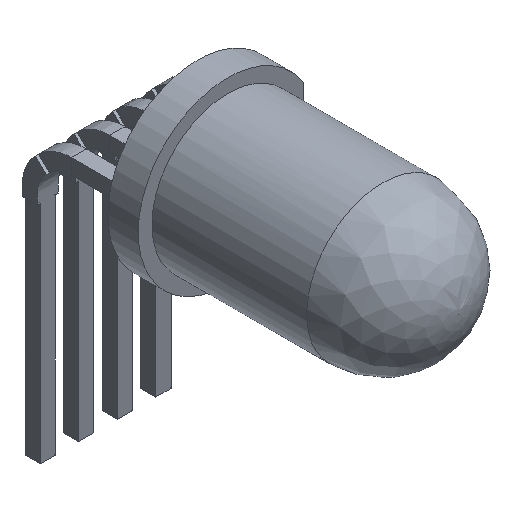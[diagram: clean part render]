
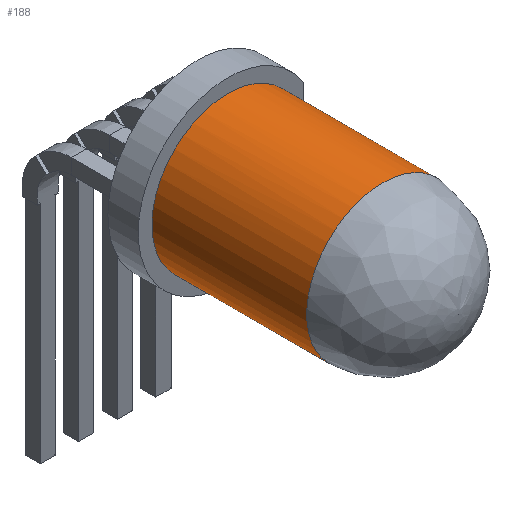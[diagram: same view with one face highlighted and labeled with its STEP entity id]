
A CAD part, isometric view. The second image highlights one B-rep face of the part: STEP entity #188.
In plain terms, the highlighted cylindrical face has radius 2.5 mm (diameter 5 mm), a full revolution.
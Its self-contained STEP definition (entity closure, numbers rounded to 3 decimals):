
#20=CYLINDRICAL_SURFACE('',#1388,2.5);
#35=(
BOUNDED_CURVE()
B_SPLINE_CURVE(2,(#4823,#4824,#4825,#4826,#4827,#4828,#4829),
 .UNSPECIFIED.,.F.,.F.)
B_SPLINE_CURVE_WITH_KNOTS((3,2,2,3),(-15.708,-11.781,
-7.854,-3.927),.UNSPECIFIED.)
CURVE()
GEOMETRIC_REPRESENTATION_ITEM()
RATIONAL_B_SPLINE_CURVE((1.,0.707,1.,0.707,1.,0.707,
1.))
REPRESENTATION_ITEM('')
);
#36=(
BOUNDED_CURVE()
B_SPLINE_CURVE(1,(#4830,#4831),.UNSPECIFIED.,.F.,.F.)
B_SPLINE_CURVE_WITH_KNOTS((2,2),(1.,6.1),.UNSPECIFIED.)
CURVE()
GEOMETRIC_REPRESENTATION_ITEM()
RATIONAL_B_SPLINE_CURVE((1.,1.))
REPRESENTATION_ITEM('')
);
#41=(
BOUNDED_CURVE()
B_SPLINE_CURVE(2,(#4856,#4857,#4858),.UNSPECIFIED.,.F.,.F.)
B_SPLINE_CURVE_WITH_KNOTS((3,3),(-3.927,0.),.UNSPECIFIED.)
CURVE()
GEOMETRIC_REPRESENTATION_ITEM()
RATIONAL_B_SPLINE_CURVE((1.,0.707,1.))
REPRESENTATION_ITEM('')
);
#42=(
BOUNDED_CURVE()
B_SPLINE_CURVE(2,(#4859,#4860,#4861,#4862,#4863,#4864,#4865,#4866,#4867,
#4868,#4869),.UNSPECIFIED.,.T.,.F.)
B_SPLINE_CURVE_WITH_KNOTS((3,2,2,2,2,3),(-15.708,-12.763,
-9.817,-6.872,-3.927,0.),.UNSPECIFIED.)
CURVE()
GEOMETRIC_REPRESENTATION_ITEM()
RATIONAL_B_SPLINE_CURVE((1.,0.831,1.,0.831,1.,0.831,
1.,0.831,1.,0.707,1.))
REPRESENTATION_ITEM('')
);
#188=ADVANCED_FACE('',(#268),#20,.T.);
#268=FACE_OUTER_BOUND('',#352,.T.);
#352=EDGE_LOOP('',(#723,#724,#725,#726,#727));
#723=ORIENTED_EDGE('',*,*,#926,.F.);
#724=ORIENTED_EDGE('',*,*,#934,.F.);
#725=ORIENTED_EDGE('',*,*,#925,.F.);
#726=ORIENTED_EDGE('',*,*,#926,.T.);
#727=ORIENTED_EDGE('',*,*,#935,.T.);
#925=EDGE_CURVE('',#1240,#1245,#35,.T.);
#926=EDGE_CURVE('',#1240,#1239,#36,.T.);
#934=EDGE_CURVE('',#1245,#1240,#41,.T.);
#935=EDGE_CURVE('',#1239,#1239,#42,.T.);
#1239=VERTEX_POINT('',#4789);
#1240=VERTEX_POINT('',#4790);
#1245=VERTEX_POINT('',#4795);
#1388=AXIS2_PLACEMENT_3D('',#4733,#1442,$);
#1442=DIRECTION('',(0.,-1.,0.));
#4733=CARTESIAN_POINT('',(30.,-8.5,6.));
#4789=CARTESIAN_POINT('',(30.,-8.1,3.5));
#4790=CARTESIAN_POINT('',(30.,-3.,3.5));
#4795=CARTESIAN_POINT('',(32.5,-3.,6.));
#4823=CARTESIAN_POINT('',(30.,-3.,3.5));
#4824=CARTESIAN_POINT('',(27.5,-3.,3.5));
#4825=CARTESIAN_POINT('',(27.5,-3.,6.));
#4826=CARTESIAN_POINT('',(27.5,-3.,8.5));
#4827=CARTESIAN_POINT('',(30.,-3.,8.5));
#4828=CARTESIAN_POINT('',(32.5,-3.,8.5));
#4829=CARTESIAN_POINT('',(32.5,-3.,6.));
#4830=CARTESIAN_POINT('',(30.,-3.,3.5));
#4831=CARTESIAN_POINT('',(30.,-8.1,3.5));
#4856=CARTESIAN_POINT('',(32.5,-3.,6.));
#4857=CARTESIAN_POINT('',(32.5,-3.,3.5));
#4858=CARTESIAN_POINT('',(30.,-3.,3.5));
#4859=CARTESIAN_POINT('',(30.,-8.1,3.5));
#4860=CARTESIAN_POINT('',(28.33,-8.1,3.5));
#4861=CARTESIAN_POINT('',(27.69,-8.1,5.043));
#4862=CARTESIAN_POINT('',(27.051,-8.1,6.587));
#4863=CARTESIAN_POINT('',(28.232,-8.1,7.768));
#4864=CARTESIAN_POINT('',(29.413,-8.1,8.949));
#4865=CARTESIAN_POINT('',(30.957,-8.1,8.31));
#4866=CARTESIAN_POINT('',(32.5,-8.1,7.67));
#4867=CARTESIAN_POINT('',(32.5,-8.1,6.));
#4868=CARTESIAN_POINT('',(32.5,-8.1,3.5));
#4869=CARTESIAN_POINT('',(30.,-8.1,3.5));
